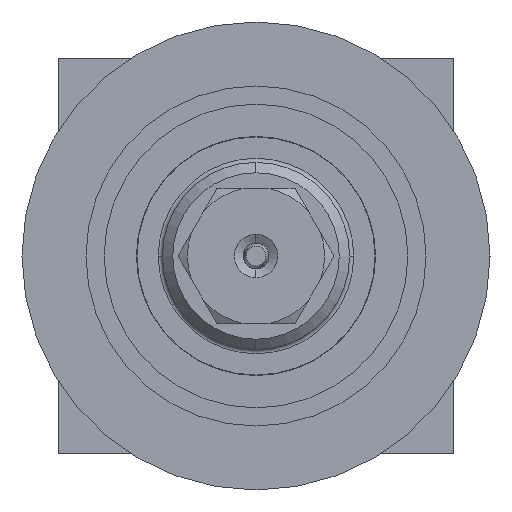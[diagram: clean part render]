
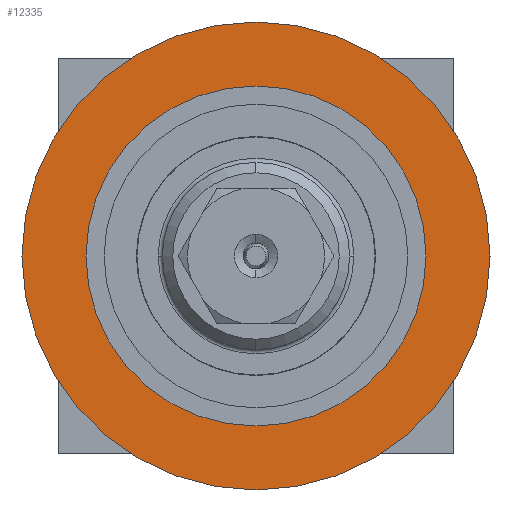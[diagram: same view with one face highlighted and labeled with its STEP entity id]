
A CAD part, left-side view. The second image highlights one B-rep face of the part: STEP entity #12335.
In plain terms, the highlighted planar face has unit normal (-1, 0, 0).
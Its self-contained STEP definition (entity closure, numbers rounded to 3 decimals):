
#139 = CARTESIAN_POINT ( 'NONE',  ( -5., 0., 0. ) ) ;
#191 = CIRCLE ( 'NONE', #4679, 16.35 ) ;
#401 = DIRECTION ( 'NONE',  ( 0., 0., 1. ) ) ;
#554 = CARTESIAN_POINT ( 'NONE',  ( -5., 16.35, 0. ) ) ;
#1075 = DIRECTION ( 'NONE',  ( 1., 0., 0. ) ) ;
#1237 = EDGE_CURVE ( 'NONE', #5844, #1621, #1264, .T. ) ;
#1264 = CIRCLE ( 'NONE', #5713, 22.5 ) ;
#1533 = DIRECTION ( 'NONE',  ( 0., -1., 0. ) ) ;
#1597 = ORIENTED_EDGE ( 'NONE', *, *, #3111, .F. ) ;
#1621 = VERTEX_POINT ( 'NONE', #5181 ) ;
#1807 = FACE_BOUND ( 'NONE', #9365, .T. ) ;
#2235 = FACE_OUTER_BOUND ( 'NONE', #17522, .T. ) ;
#3111 = EDGE_CURVE ( 'NONE', #15633, #10766, #3940, .T. ) ;
#3801 = CARTESIAN_POINT ( 'NONE',  ( -5., 0., -22.5 ) ) ;
#3940 = CIRCLE ( 'NONE', #8356, 16.35 ) ;
#3949 = DIRECTION ( 'NONE',  ( -1., 0., 0. ) ) ;
#4679 = AXIS2_PLACEMENT_3D ( 'NONE', #139, #9914, #1533 ) ;
#5181 = CARTESIAN_POINT ( 'NONE',  ( -5., 0., 22.5 ) ) ;
#5312 = ORIENTED_EDGE ( 'NONE', *, *, #1237, .T. ) ;
#5713 = AXIS2_PLACEMENT_3D ( 'NONE', #12722, #11351, #5757 ) ;
#5757 = DIRECTION ( 'NONE',  ( 0., 0., 1. ) ) ;
#5844 = VERTEX_POINT ( 'NONE', #3801 ) ;
#6104 = EDGE_CURVE ( 'NONE', #10766, #15633, #191, .T. ) ;
#6240 = PLANE ( 'NONE',  #14533 ) ;
#8356 = AXIS2_PLACEMENT_3D ( 'NONE', #12410, #3949, #13832 ) ;
#8413 = CARTESIAN_POINT ( 'NONE',  ( -5., -16.35, 0. ) ) ;
#8777 = DIRECTION ( 'NONE',  ( -1., 0., 0. ) ) ;
#8913 = ORIENTED_EDGE ( 'NONE', *, *, #6104, .F. ) ;
#9365 = EDGE_LOOP ( 'NONE', ( #8913, #1597 ) ) ;
#9458 = CARTESIAN_POINT ( 'NONE',  ( -5., 22.5, 0. ) ) ;
#9914 = DIRECTION ( 'NONE',  ( -1., 0., 0. ) ) ;
#10766 = VERTEX_POINT ( 'NONE', #8413 ) ;
#10898 = DIRECTION ( 'NONE',  ( 0., 0., -1. ) ) ;
#11351 = DIRECTION ( 'NONE',  ( -1., 0., 0. ) ) ;
#12335 = ADVANCED_FACE ( 'NONE', ( #2235, #1807 ), #6240, .F. ) ;
#12410 = CARTESIAN_POINT ( 'NONE',  ( -5., 0., 0. ) ) ;
#12619 = EDGE_CURVE ( 'NONE', #1621, #5844, #16836, .T. ) ;
#12722 = CARTESIAN_POINT ( 'NONE',  ( -5., 0., 0. ) ) ;
#13832 = DIRECTION ( 'NONE',  ( 0., -1., 0. ) ) ;
#14533 = AXIS2_PLACEMENT_3D ( 'NONE', #9458, #1075, #10898 ) ;
#15633 = VERTEX_POINT ( 'NONE', #554 ) ;
#16694 = AXIS2_PLACEMENT_3D ( 'NONE', #17319, #8777, #401 ) ;
#16836 = CIRCLE ( 'NONE', #16694, 22.5 ) ;
#17319 = CARTESIAN_POINT ( 'NONE',  ( -5., 0., 0. ) ) ;
#17522 = EDGE_LOOP ( 'NONE', ( #17971, #5312 ) ) ;
#17971 = ORIENTED_EDGE ( 'NONE', *, *, #12619, .T. ) ;
